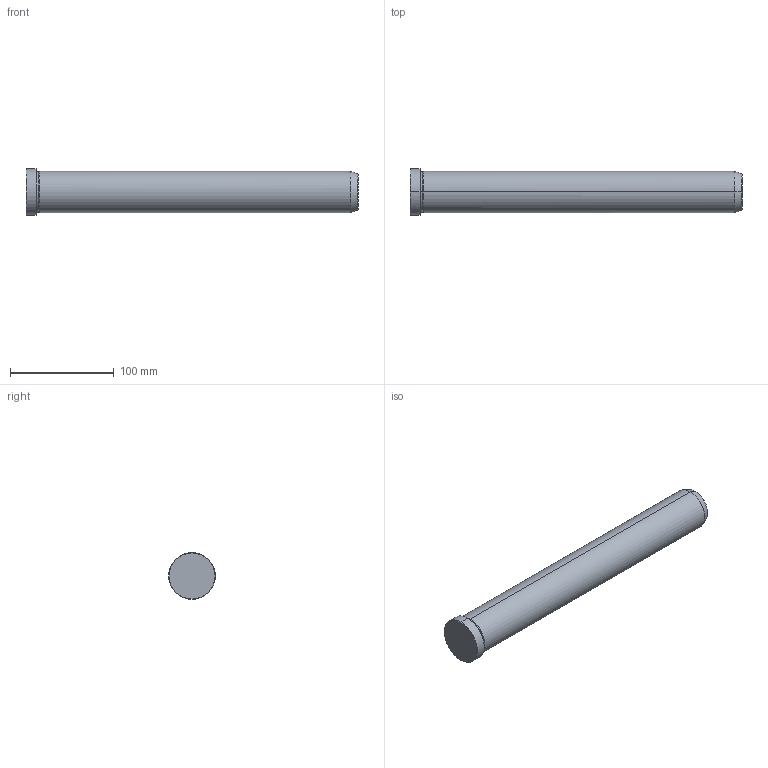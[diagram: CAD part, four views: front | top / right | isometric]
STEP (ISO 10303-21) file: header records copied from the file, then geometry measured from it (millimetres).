
FILE_DESCRIPTION(('CATIA V5 STEP Exchange'),'2;1');
FILE_NAME('C:\Users\Utente\Desktop\IO LAVORO\3D X SITO CF\X SITO\PLASTICA\549\549-40X320.stp','2021-12-18T08:12:24+00:00',('none'),('none'),'CATIA Version 5 Release 20 GA (IN-10)','CATIA V5 STEP AP203','none');
FILE_SCHEMA(('CONFIG_CONTROL_DESIGN'));
Length unit declared in the file: millimetre
Products named in the file (1): 549-40X320
Bounding box: 320 x 45 x 45 mm (x, y, z)
Volume: 404104.1 mm3; surface area: 43225.5 mm2
Topology: 1 solids, 1 shells, 19 faces, 56 edges, 40 vertices
Faces by surface type: cone 8, cylinder 6, plane 3, torus 2
Entity records: 736 total; most frequent: CARTESIAN_POINT 192, ORIENTED_EDGE 112, DIRECTION 86, EDGE_CURVE 56, AXIS2_PLACEMENT_3D 54, VERTEX_POINT 40, CIRCLE 34, EDGE_LOOP 20
